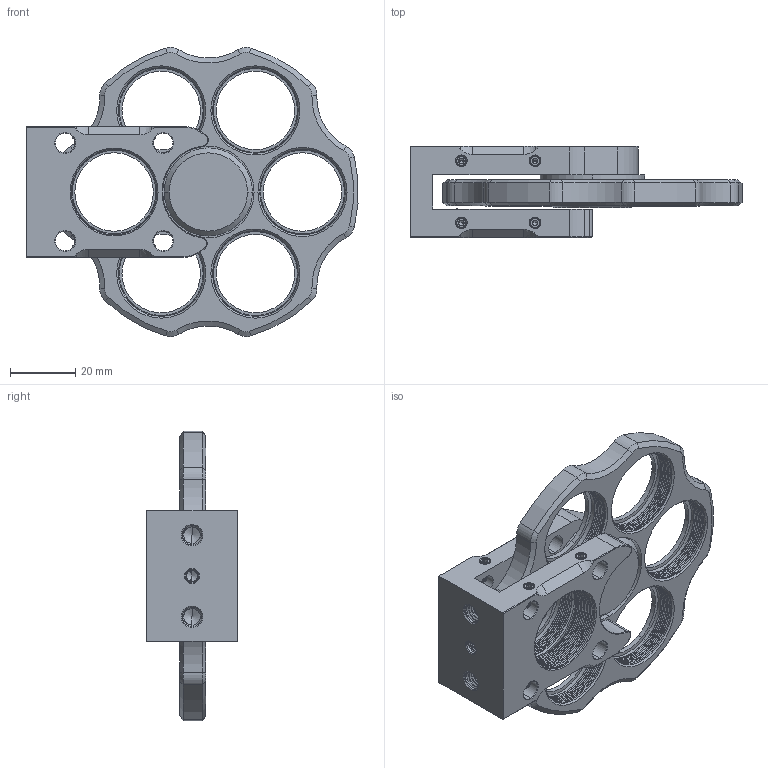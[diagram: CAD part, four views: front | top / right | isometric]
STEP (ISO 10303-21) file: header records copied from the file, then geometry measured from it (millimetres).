
FILE_DESCRIPTION((''),'2;1');
FILE_NAME('FWO_B_ASM','2021-11-16T',('Administrator'),(''),'CREO PARAMETRIC BY PTC INC, 2015290','CREO PARAMETRIC BY PTC INC, 2015290','');
FILE_SCHEMA(('CONFIG_CONTROL_DESIGN'));
Products named in the file (7): FWO-A_A2; FWO_B; SPACER_14X1; FWO-A_A4; M5X8_HSB; M3X5_HS; FWO_B_ASM
Assembly tree (14 placements, depth 2):
  FWO_B_ASM
    FWO-A_A2
    FWO_B
    SPACER_14X1
    FWO-A_A4
    M5X8_HSB  x2
    M3X5_HS  x8
Bounding box: 101.71 x 28 x 88.63 mm (x, y, z)
Volume: 54127.3 mm3; surface area: 31634.2 mm2
Topology: 14 solids, 14 shells, 1422 faces, 3611 edges, 2215 vertices
Faces by surface type: cylinder 584, bspline 360, cone 250, plane 196, sphere 24, extrusion 8
Entity records: 92972 total; most frequent: CARTESIAN_POINT 67243, ORIENTED_EDGE 6292, DIRECTION 3686, EDGE_CURVE 3146, VERTEX_POINT 2002, B_SPLINE_CURVE_WITH_KNOTS 1672, AXIS2_PLACEMENT_3D 1347, EDGE_LOOP 1278
